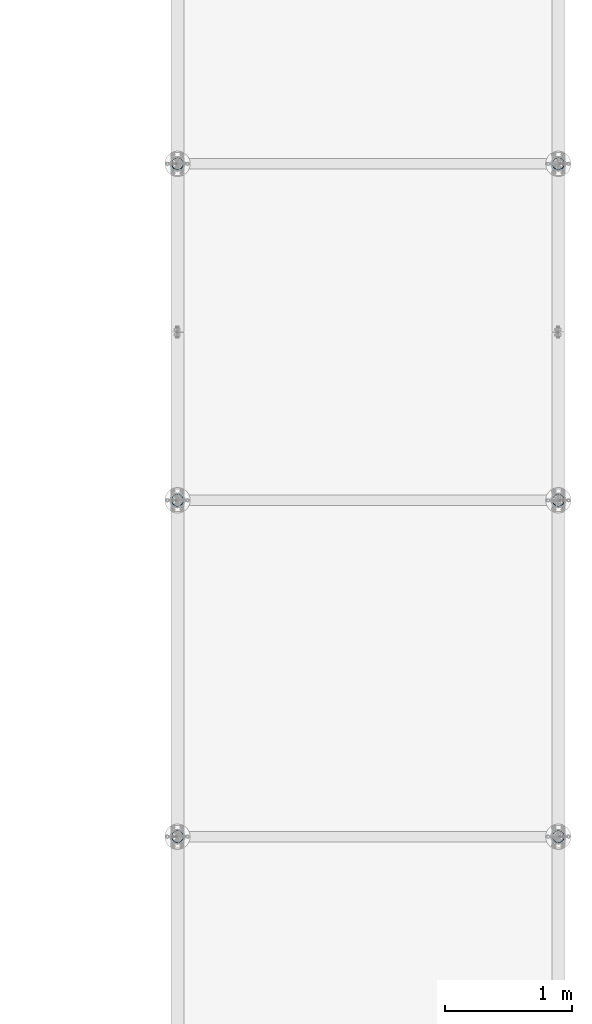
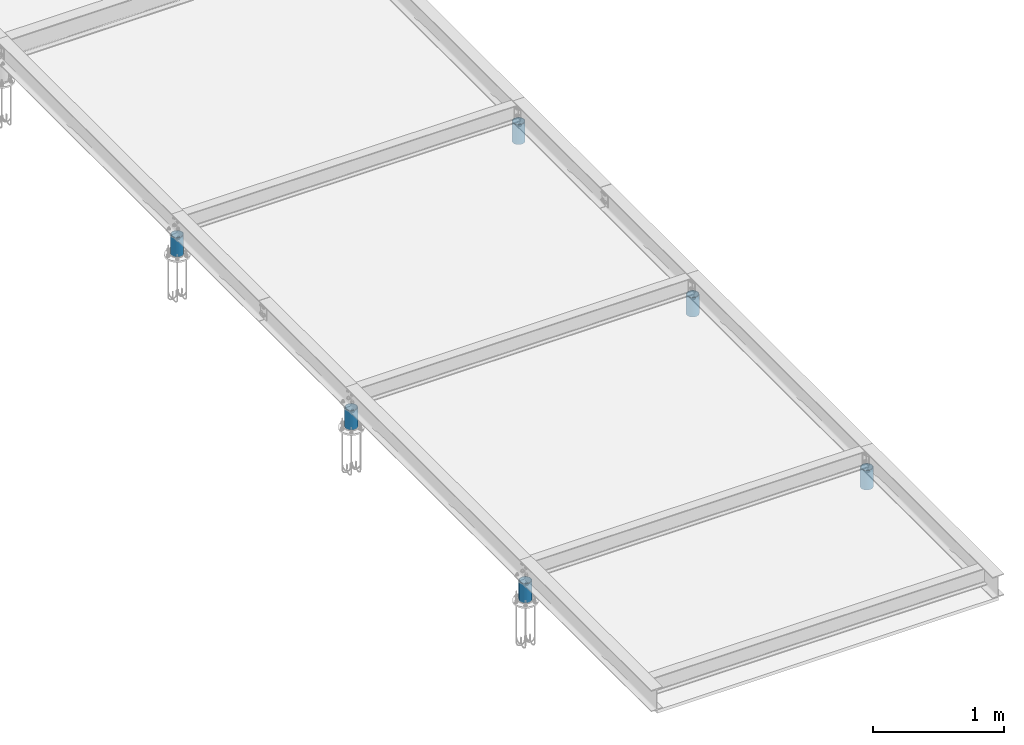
# One storey, part 1 of 84: 6 columns.
"""IFC4 building model written with IfcOpenShell, lengths in metres."""

from ifc_helpers import new_model, si_unit, frame, origin_with_axes, origin_2d_with_axis, place, context, project, spatial, hollow_circle, i_section, extrude, clip, halfspace, material, material_profile, profile_set, profile_usage, type_object, element, save


model = new_model("IFC4")

# Units and contexts
model_context = context("Model", 3, precision=1e-05, world=origin_with_axes())
ifc_project = project(units=[si_unit("LENGTHUNIT", "METRE"), si_unit("AREAUNIT", "SQUARE_METRE"), si_unit("VOLUMEUNIT", "CUBIC_METRE"), si_unit("MASSUNIT", "GRAM", prefix="KILO"), si_unit("TIMEUNIT", "SECOND"), si_unit("PLANEANGLEUNIT", "RADIAN"), si_unit("SOLIDANGLEUNIT", "STERADIAN"), si_unit("THERMODYNAMICTEMPERATUREUNIT", "DEGREE_CELSIUS")], contexts=[model_context])

# Site, building, storey
placement_1 = place(None, origin_with_axes())
site = spatial("IfcSite", under=ifc_project, at=placement_1, Name="Italia", CompositionType="ELEMENT")
building = spatial("IfcBuilding", under=site, at=placement_1, Name="Tettoia", CompositionType="ELEMENT")
storey_placement = place(None, frame((0.0, 0.0, 4.199999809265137), z_axis=(0.0, 0.0, 1.0), x_axis=(1.0, 0.0, 0.0)))
storey = spatial("IfcBuildingStorey", under=building, at=storey_placement, Name="Storey 1", CompositionType="ELEMENT", Elevation=4.199999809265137)

# Columns
ifc_material = material(Name="Acciaio", Category="Acciaio")
ifc_material_profile = material_profile(ifc_material, i_section(OverallWidth=0.082, OverallDepth=0.16, WebThickness=0.005, FlangeThickness=0.0074, FilletRadius=0.009, at=origin_2d_with_axis()), Name="3 IPE160")
ifc_profile_set = profile_set([ifc_material_profile])
ifc_profile_usage_1 = profile_usage(ifc_profile_set, cardinal=1)
column_type_1 = type_object("IfcColumnType", Name="4 CC101x5", PredefinedType="COLUMN", material=ifc_profile_usage_1)
placement_2 = place(placement_1, origin_with_axes())
column_1_placement = place(placement_2, frame((8.290000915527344, 7.302285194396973, 3.899999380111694), z_axis=(0.0, 0.0, 1.0), x_axis=(1.0, 0.0, 0.0)))
element("IfcColumn", 1, at=column_1_placement, inside=storey, type_object=column_type_1, Name="24", context=model_context, shape_type="Clipping", body=[
    clip(clip(extrude(hollow_circle(Radius=0.0505, WallThickness=0.005, at=origin_2d_with_axis()), frame((0.0, 0.0, 0.0), z_axis=(0.0, 0.0, 1.0), x_axis=(0.0, 1.0, 0.0)), (0.0, 0.0, 1.0), 0.4), halfspace(frame((0.0, -0.00228596, 0.115), z_axis=(0.0, 0.0, -1.0), x_axis=(1.0, 0.0, 0.0)), False)), halfspace(frame((0.0, -0.00228596, 0.295002), z_axis=(0.0, 0.0, -1.0), x_axis=(1.0, 0.0, 0.0)), True)),
])
ifc_profile_usage_2 = profile_usage(ifc_profile_set, cardinal=1)
column_type_2 = type_object("IfcColumnType", Name="4 CC101x5", PredefinedType="COLUMN", material=ifc_profile_usage_2)
column_2_placement = place(placement_2, frame((11.290000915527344, 7.302285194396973, 3.899999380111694), z_axis=(0.0, 0.0, 1.0), x_axis=(1.0, 0.0, 0.0)))
element("IfcColumn", 2, at=column_2_placement, inside=storey, type_object=column_type_2, Name="25", context=model_context, shape_type="Clipping", body=[
    clip(clip(extrude(hollow_circle(Radius=0.0505, WallThickness=0.005, at=origin_2d_with_axis()), frame((0.0, 0.0, 0.0), z_axis=(0.0, 0.0, 1.0), x_axis=(0.0, 1.0, 0.0)), (0.0, 0.0, 1.0), 0.4), halfspace(frame((0.0, -0.00228596, 0.110001), z_axis=(0.0, 0.0, -1.0), x_axis=(1.0, 0.0, 0.0)), False)), halfspace(frame((0.0, -0.00228596, 0.295002), z_axis=(0.0, 0.0, -1.0), x_axis=(1.0, 0.0, 0.0)), True)),
])
ifc_profile_usage_3 = profile_usage(ifc_profile_set, cardinal=1)
column_type_3 = type_object("IfcColumnType", Name="4 CC101x5", PredefinedType="COLUMN", material=ifc_profile_usage_3)
column_3_placement = place(placement_2, frame((11.290000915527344, 4.652285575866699, 3.899999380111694), z_axis=(0.0, 0.0, 1.0), x_axis=(1.0, 0.0, 0.0)))
element("IfcColumn", 3, at=column_3_placement, inside=storey, type_object=column_type_3, Name="27", context=model_context, shape_type="Clipping", body=[
    clip(clip(extrude(hollow_circle(Radius=0.0505, WallThickness=0.005, at=origin_2d_with_axis()), frame((0.0, 0.0, 0.0), z_axis=(0.0, 0.0, 1.0), x_axis=(0.0, 1.0, 0.0)), (0.0, 0.0, 1.0), 0.4), halfspace(frame((0.0, -0.00228548, 0.115), z_axis=(0.0, 0.0, -1.0), x_axis=(1.0, 0.0, 0.0)), False)), halfspace(frame((0.0, -0.00228548, 0.295002), z_axis=(0.0, 0.0, -1.0), x_axis=(1.0, 0.0, 0.0)), True)),
])
ifc_profile_usage_4 = profile_usage(ifc_profile_set, cardinal=1)
column_type_4 = type_object("IfcColumnType", Name="4 CC101x5", PredefinedType="COLUMN", material=ifc_profile_usage_4)
column_4_placement = place(placement_2, frame((8.290000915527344, 4.652285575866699, 3.899999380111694), z_axis=(0.0, 0.0, 1.0), x_axis=(1.0, 0.0, 0.0)))
element("IfcColumn", 4, at=column_4_placement, inside=storey, type_object=column_type_4, Name="28", context=model_context, shape_type="Clipping", body=[
    clip(clip(extrude(hollow_circle(Radius=0.0505, WallThickness=0.005, at=origin_2d_with_axis()), frame((0.0, 0.0, 0.0), z_axis=(0.0, 0.0, 1.0), x_axis=(0.0, 1.0, 0.0)), (0.0, 0.0, 1.0), 0.4), halfspace(frame((0.0, -0.00228548, 0.115), z_axis=(0.0, 0.0, -1.0), x_axis=(1.0, 0.0, 0.0)), False)), halfspace(frame((0.0, -0.00228548, 0.295002), z_axis=(0.0, 0.0, -1.0), x_axis=(1.0, 0.0, 0.0)), True)),
])
ifc_profile_usage_5 = profile_usage(ifc_profile_set, cardinal=1)
column_type_5 = type_object("IfcColumnType", Name="4 CC101x5", PredefinedType="COLUMN", material=ifc_profile_usage_5)
column_5_placement = place(placement_2, frame((8.290000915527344, 2.002285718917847, 3.899999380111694), z_axis=(0.0, 0.0, 1.0), x_axis=(1.0, 0.0, 0.0)))
element("IfcColumn", 5, at=column_5_placement, inside=storey, type_object=column_type_5, Name="29", context=model_context, shape_type="Clipping", body=[
    clip(clip(extrude(hollow_circle(Radius=0.0505, WallThickness=0.005, at=origin_2d_with_axis()), frame((0.0, 0.0, 0.0), z_axis=(0.0, 0.0, 1.0), x_axis=(0.0, 1.0, 0.0)), (0.0, 0.0, 1.0), 0.4), halfspace(frame((0.0, -0.00228572, 0.115), z_axis=(0.0, 0.0, -1.0), x_axis=(1.0, 0.0, 0.0)), False)), halfspace(frame((0.0, -0.00228572, 0.295002), z_axis=(0.0, 0.0, -1.0), x_axis=(1.0, 0.0, 0.0)), True)),
])
ifc_profile_usage_6 = profile_usage(ifc_profile_set, cardinal=1)
column_type_6 = type_object("IfcColumnType", Name="4 CC101x5", PredefinedType="COLUMN", material=ifc_profile_usage_6)
column_6_placement = place(placement_2, frame((11.290000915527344, 2.002285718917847, 3.899999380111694), z_axis=(0.0, 0.0, 1.0), x_axis=(1.0, 0.0, 0.0)))
element("IfcColumn", 6, at=column_6_placement, inside=storey, type_object=column_type_6, Name="30", context=model_context, shape_type="Clipping", body=[
    clip(clip(extrude(hollow_circle(Radius=0.0505, WallThickness=0.005, at=origin_2d_with_axis()), frame((0.0, 0.0, 0.0), z_axis=(0.0, 0.0, 1.0), x_axis=(0.0, 1.0, 0.0)), (0.0, 0.0, 1.0), 0.4), halfspace(frame((0.0, -0.00228572, 0.115), z_axis=(0.0, 0.0, -1.0), x_axis=(1.0, 0.0, 0.0)), False)), halfspace(frame((0.0, -0.00228572, 0.295002), z_axis=(0.0, 0.0, -1.0), x_axis=(1.0, 0.0, 0.0)), True)),
])

save(model, "model.ifc")
